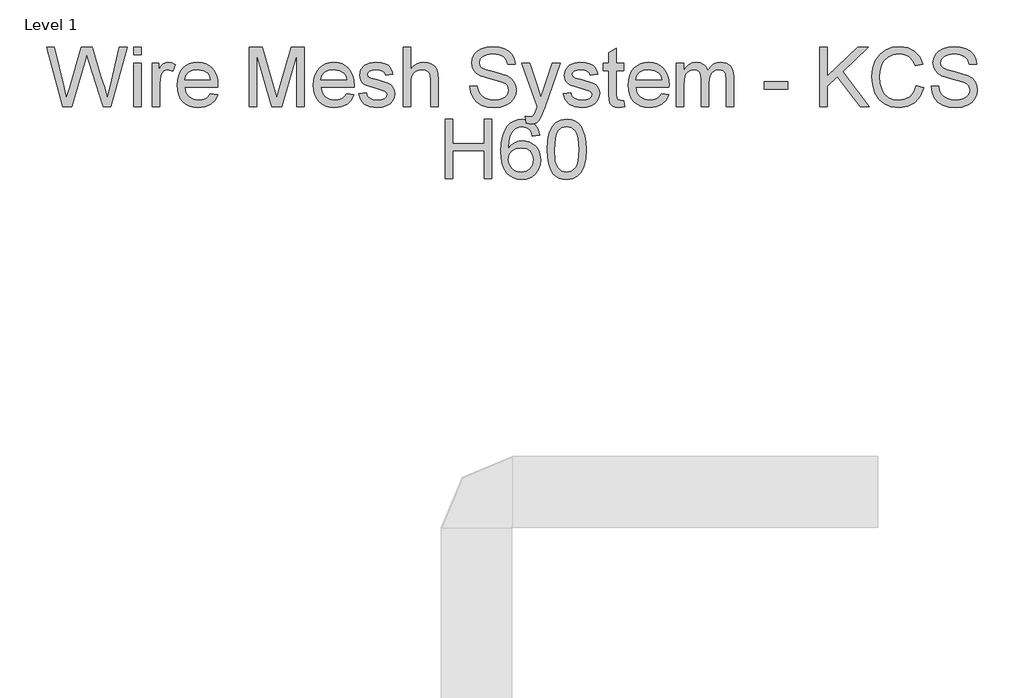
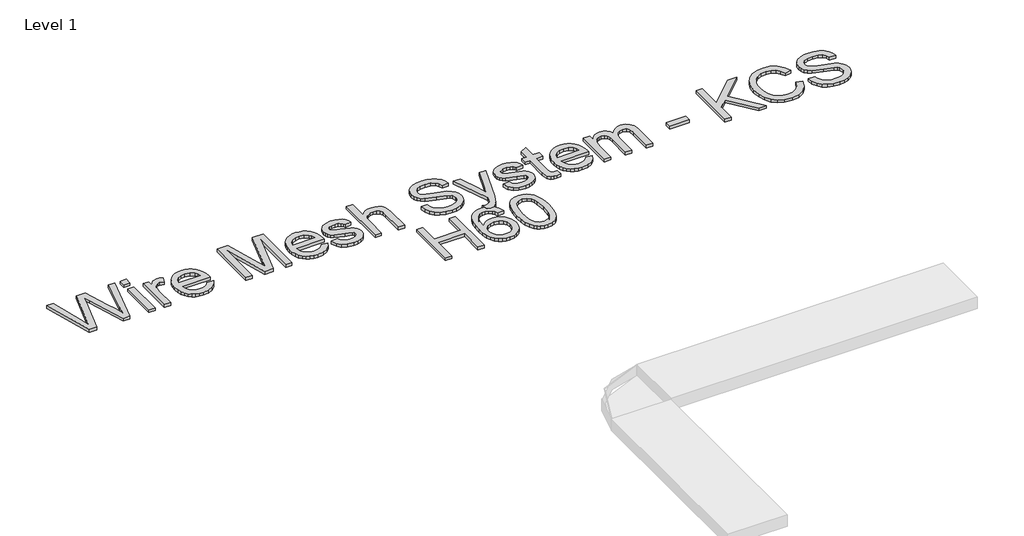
# One storey, part 27 of 32: 1 proxy.
"""IFC4 building model written with IfcOpenShell, lengths in millimetres."""

from ifc_helpers import new_model, si_unit, origin, origin_with_axes, place, context, project, spatial, polyline, outline, extrude, element, save

model = new_model("IFC4")

# Units and contexts
model_context = context("Model", 3, world=origin())
ifc_project = project(units=[si_unit("LENGTHUNIT", "METRE", prefix="MILLI")], contexts=[model_context])

# Site, building, storey
site = spatial("IfcSite", under=ifc_project)
building = spatial("IfcBuilding", under=site)
storey = spatial("IfcBuildingStorey", under=building, Name="Level 1", Elevation=0.0)

# Proxy
placement = place(None, origin())
element("IfcBuildingElementProxy", 1, Name="250mm Arial 3", ObjectType="250mm Arial 3", at=placement, inside=storey, context=model_context, shape_type="SweptSolid", body=[
    extrude(outline(polyline([(3816.2159742, 57703.1379564), (3747.7286094, 57954.2787318), (3780.102225, 57954.2787318), (3819.8334805, 57789.2223433), (3832.0962137, 57738.2706869), (3845.2173381, 57783.3362313), (3895.0040348, 57954.2787318), (3941.6637345, 57954.2787318), (3977.8387974, 57830.3638131), (3993.3358265, 57784.3785637), (4004.7554967, 57738.2706869), (4016.6503479, 57787.7508153), (4056.7494854, 57954.2787318), (4089.1231009, 57954.2787318), (4020.5744225, 57703.1379564), (3987.0358473, 57703.1379564), (3926.8258274, 57896.8891405), (3918.4258552, 57923.9284672), (3908.9835506, 57891.3709106), (3854.1078197, 57703.1379564), (3816.2159742, 57703.1379564)])), origin_with_axes(), (0.0, 0.0, 1.0), 15.0),
    extrude(outline(polyline([(4116.5916233, 57922.8861348), (4116.5916233, 57954.2787318), (4147.9842202, 57954.2787318), (4147.9842202, 57922.8861348), (4116.5916233, 57922.8861348)])), origin_with_axes(), (0.0, 0.0, 1.0), 15.0),
    extrude(outline(polyline([(4116.5916233, 57703.1379564), (4116.5916233, 57887.5694633), (4147.9842202, 57887.5694633), (4147.9842202, 57703.1379564), (4116.5916233, 57703.1379564)])), origin_with_axes(), (0.0, 0.0, 1.0), 15.0),
    extrude(outline(polyline([(4195.0731156, 57703.1379564), (4195.0731156, 57887.5694633), (4222.5416379, 57887.5694633), (4222.5416379, 57860.284882), (4232.6890496, 57876.1038078), (4242.0393836, 57885.423485), (4261.6597567, 57891.4935379), (4277.2947415, 57889.0716481), (4293.1749809, 57881.8059787), (4282.6903441, 57853.6630061), (4260.6174244, 57860.100941), (4251.2440977, 57858.5527709), (4242.8671181, 57853.9082608), (4231.5547467, 57836.7404343), (4226.4657125, 57800.0748621), (4226.4657125, 57703.1379564), (4195.0731156, 57703.1379564)])), origin_with_axes(), (0.0, 0.0, 1.0), 15.0),
    extrude(outline(polyline([(4441.9219343, 57758.075001), (4472.7013946, 57754.1509264), (4461.6112853, 57730.9590323), (4443.9146285, 57713.6225933), (4420.009963, 57702.8160597), (4390.2958277, 57699.2138818), (4370.8172424, 57700.7678), (4353.4616429, 57705.4295547), (4338.229029, 57713.1991458), (4325.1194009, 57724.0765733), (4314.5772824, 57737.759101), (4307.0471978, 57753.9439928), (4302.5291471, 57772.6312485), (4301.0231302, 57793.8208682), (4302.5444755, 57815.7290074), (4307.1085115, 57835.0389801), (4314.7152382, 57851.7507861), (4325.3646555, 57865.8644256), (4338.4397948, 57877.0771622), (4353.3236872, 57885.0862598), (4370.0163327, 57889.8917184), (4388.5177314, 57891.4935379), (4406.4232378, 57889.8955505), (4422.6157938, 57885.1015883), (4437.0953992, 57877.1116512), (4449.8620541, 57865.9257393), (4460.2834612, 57851.8427566), (4467.7273234, 57835.1616074), (4472.1936408, 57815.8822916), (4473.6824132, 57794.0048092), (4473.4984722, 57785.5435233), (4332.4157271, 57785.5435233), (4337.8496507, 57762.0450609), (4350.4726017, 57744.7699355), (4368.6904247, 57734.1473429), (4390.9089643, 57730.6064787), (4407.6169383, 57732.2466193), (4421.6884246, 57737.1670409), (4433.1234233, 57745.6743121), (4441.9219343, 57758.075001)]), holes=[polyline([(4332.4157271, 57816.9361202), (4442.2898163, 57816.9361202), (4438.043845, 57833.5214669), (4429.7205148, 57845.3856612), (4411.4183856, 57856.4221211), (4388.395104, 57860.100941), (4367.2342251, 57857.1655493), (4349.7368377, 57848.359374), (4337.5737392, 57834.632777), (4332.4157271, 57816.9361202)])]), origin_with_axes(), (0.0, 0.0, 1.0), 15.0),
    extrude(outline(polyline([(4607.1009502, 57703.1379564), (4607.1009502, 57954.2787318), (4661.1182898, 57954.2787318), (4712.4991418, 57777.2661784), (4722.8611513, 57740.2940379), (4734.0815522, 57780.3318617), (4784.6040128, 57954.2787318), (4838.6213525, 57954.2787318), (4838.6213525, 57703.1379564), (4807.2287555, 57703.1379564), (4807.2287555, 57922.8861348), (4744.1369934, 57703.1379564), (4701.5853093, 57703.1379564), (4638.4935471, 57922.8861348), (4638.4935471, 57703.1379564), (4607.1009502, 57703.1379564)])), origin_with_axes(), (0.0, 0.0, 1.0), 15.0),
    extrude(outline(polyline([(5018.7609028, 57758.075001), (5049.540363, 57754.1509264), (5038.4502537, 57730.9590323), (5020.7535969, 57713.6225933), (4996.8489314, 57702.8160597), (4967.1347961, 57699.2138818), (4947.6562109, 57700.7678), (4930.3006113, 57705.4295547), (4915.0679975, 57713.1991458), (4901.9583693, 57724.0765733), (4891.4162509, 57737.759101), (4883.8861663, 57753.9439928), (4879.3681155, 57772.6312485), (4877.8620986, 57793.8208682), (4879.3834439, 57815.7290074), (4883.9474799, 57835.0389801), (4891.5542066, 57851.7507861), (4902.203624, 57865.8644256), (4915.2787632, 57877.0771622), (4930.1626556, 57885.0862598), (4946.8553011, 57889.8917184), (4965.3566998, 57891.4935379), (4983.2622063, 57889.8955505), (4999.4547622, 57885.1015883), (5013.9343676, 57877.1116512), (5026.7010225, 57865.9257393), (5037.1224296, 57851.8427566), (5044.5662919, 57835.1616074), (5049.0326092, 57815.8822916), (5050.5213817, 57794.0048092), (5050.3374407, 57785.5435233), (4909.2546955, 57785.5435233), (4914.6886192, 57762.0450609), (4927.3115701, 57744.7699355), (4945.5293931, 57734.1473429), (4967.7479328, 57730.6064787), (4984.4559067, 57732.2466193), (4998.527393, 57737.1670409), (5009.9623917, 57745.6743121), (5018.7609028, 57758.075001)]), holes=[polyline([(4909.2546955, 57816.9361202), (5019.1287848, 57816.9361202), (5014.8828134, 57833.5214669), (5006.5594833, 57845.3856612), (4988.257354, 57856.4221211), (4965.2340725, 57860.100941), (4944.0731935, 57857.1655493), (4926.5758061, 57848.359374), (4914.4127077, 57834.632777), (4909.2546955, 57816.9361202)])]), origin_with_axes(), (0.0, 0.0, 1.0), 15.0),
    extrude(outline(polyline([(5070.1417548, 57758.075001), (5101.5343517, 57761.9990756), (5106.4854302, 57748.5713828), (5116.0656905, 57738.6998826), (5130.3364462, 57732.6298297), (5149.359011, 57730.6064787), (5168.1516496, 57732.4612171), (5181.3647446, 57738.0254323), (5189.182237, 57746.0881793), (5191.7880678, 57755.4385134), (5189.1669086, 57763.4399468), (5181.303431, 57769.5406565), (5148.9911291, 57778.4924517), (5101.7182927, 57793.851525), (5089.7544636, 57801.5693827), (5081.0862441, 57811.7857723), (5075.8209331, 57823.8492361), (5074.0658294, 57837.1083163), (5079.7066866, 57860.4994798), (5095.0964168, 57878.3724134), (5115.054015, 57887.6614338), (5142.0626848, 57891.4935379), (5162.495464, 57889.9530321), (5180.2610986, 57885.3315145), (5194.5471828, 57878.0811735), (5204.5413103, 57868.6541974), (5211.1631862, 57856.3531432), (5215.3325155, 57840.4805679), (5183.9399186, 57836.5564933), (5179.9775229, 57846.4356577), (5172.1370379, 57853.8776039), (5160.3418214, 57858.5451067), (5144.5152314, 57860.100941), (5126.4890137, 57858.6140846), (5114.4715352, 57854.1535154), (5107.7117035, 57847.7155805), (5105.4584263, 57840.2966269), (5109.1985599, 57831.1608907), (5120.9094701, 57824.2324465), (5147.9487967, 57817.5492569), (5194.0260166, 57802.7726634), (5206.1967793, 57795.7062634), (5215.424486, 57786.0340326), (5221.2416201, 57773.7253142), (5223.1806647, 57758.7494513), (5220.9043949, 57743.2677507), (5214.0755854, 57728.7057551), (5202.9548192, 57716.2054314), (5187.8026795, 57706.9087468), (5169.5005503, 57701.137598), (5148.9298154, 57699.2138818), (5117.2766354, 57702.9233586), (5094.1767118, 57714.0517889), (5078.7563248, 57732.4765455), (5070.1417548, 57758.075001)])), origin_with_axes(), (0.0, 0.0, 1.0), 15.0),
    extrude(outline(polyline([(5258.4973363, 57703.1379564), (5258.4973363, 57954.2787318), (5289.8899332, 57954.2787318), (5289.8899332, 57861.940351), (5301.4207345, 57874.8698703), (5314.3694143, 57884.1052412), (5328.7359726, 57889.6464637), (5344.5204095, 57891.4935379), (5363.4816607, 57889.4778512), (5379.7757674, 57883.4307909), (5392.6056519, 57873.8275379), (5401.1742367, 57861.1432733), (5406.0026879, 57843.7148638), (5407.6121717, 57819.8791762), (5407.6121717, 57703.1379564), (5376.2195747, 57703.1379564), (5376.2195747, 57816.6295519), (5373.7210429, 57836.2805818), (5366.2254472, 57849.7389315), (5354.146655, 57857.5104386), (5337.8985336, 57860.100941), (5324.6317891, 57858.3535015), (5312.1774507, 57853.1111831), (5301.8614265, 57844.8798235), (5295.0096243, 57834.1652603), (5291.169856, 57819.9251614), (5289.8899332, 57801.1171944), (5289.8899332, 57703.1379564), (5258.4973363, 57703.1379564)])), origin_with_axes(), (0.0, 0.0, 1.0), 15.0),
    extrude(outline(polyline([(5541.0307086, 57789.4675979), (5572.4233055, 57789.4675979), (5576.0254834, 57772.0468526), (5582.5400604, 57758.0443442), (5592.7028005, 57746.9312422), (5607.2494677, 57738.1787164), (5625.0304308, 57732.4995381), (5644.8960586, 57730.6064787), (5662.3857817, 57732.0396856), (5677.6988698, 57736.3393065), (5690.1072229, 57743.1451234), (5698.8827413, 57752.0969186), (5704.1020672, 57762.3746218), (5705.8418424, 57773.1581628), (5700.6301808, 57792.7478791), (5692.6900611, 57800.4963936), (5679.2930251, 57807.0033064), (5633.5836872, 57818.990128), (5584.3794703, 57834.4718287), (5568.7521498, 57845.0331076), (5557.6773689, 57857.8323354), (5551.0784856, 57872.5936004), (5548.8788578, 57889.0409913), (5551.5996517, 57907.4274268), (5559.7620335, 57924.5722607), (5573.1514053, 57939.1035995), (5591.5531693, 57949.64955), (5613.6414174, 57956.0644923), (5638.0902416, 57958.2028064), (5664.5777453, 57955.9648576), (5687.754311, 57949.2510112), (5706.7922042, 57938.1992229), (5720.8636906, 57922.9474485), (5729.7695005, 57904.4460498), (5733.3103647, 57883.6453887), (5701.9177678, 57883.6453887), (5696.1542832, 57902.3767136), (5684.1368047, 57915.8963769), (5665.3594945, 57924.0817513), (5639.316515, 57926.8102095), (5612.6603987, 57924.1124082), (5594.3735979, 57916.0190043), (5583.7969905, 57904.1088247), (5580.2714547, 57889.9606963), (5582.7699866, 57877.8972325), (5590.2655823, 57868.1943449), (5607.9852317, 57859.5184612), (5641.5238069, 57850.6586365), (5697.0739882, 57834.9010243), (5714.9699144, 57823.5120109), (5727.4549096, 57809.455853), (5734.7895569, 57792.8858348), (5737.2344393, 57773.9552405), (5734.4216749, 57754.6031147), (5725.9833817, 57736.4006201), (5712.2644489, 57720.7349785), (5693.6097661, 57708.9934115), (5671.1766286, 57701.6587642), (5646.1223319, 57699.2138818), (5615.3658642, 57701.8503694), (5590.0509844, 57709.7598323), (5569.8864526, 57722.9729273), (5554.5810287, 57741.5203112), (5544.7555138, 57764.1143971), (5541.0307086, 57789.4675979)])), origin_with_axes(), (0.0, 0.0, 1.0), 15.0),
    extrude(outline(polyline([(5780.3992601, 57632.5046133), (5776.4751855, 57662.7322506), (5792.4167386, 57659.9731356), (5807.3159594, 57663.4373577), (5816.4516956, 57673.0942601), (5825.0356089, 57696.2095122), (5827.4881555, 57703.8124067), (5760.778887, 57887.5694633), (5793.8882666, 57887.5694633), (5829.2662518, 57785.1756413), (5841.5902986, 57744.2181125), (5853.9143455, 57780.3931754), (5890.2733493, 57887.5694633), (5923.1374742, 57887.5694633), (5858.9420661, 57698.7233725), (5842.264749, 57657.7658437), (5833.726821, 57644.6907044), (5824.0545902, 57635.6316103), (5812.8188609, 57630.3433066), (5799.5904375, 57628.5805387), (5780.3992601, 57632.5046133)])), origin_with_axes(), (0.0, 0.0, 1.0), 15.0),
    extrude(outline(polyline([(5937.3622447, 57758.075001), (5968.7548416, 57761.9990756), (5973.7059202, 57748.5713828), (5983.2861804, 57738.6998826), (5997.5569362, 57732.6298297), (6016.579501, 57730.6064787), (6035.3721396, 57732.4612171), (6048.5852346, 57738.0254323), (6056.402727, 57746.0881793), (6059.0085578, 57755.4385134), (6056.3873986, 57763.4399468), (6048.5239209, 57769.5406565), (6016.211619, 57778.4924517), (5968.9387826, 57793.851525), (5956.9749536, 57801.5693827), (5948.3067341, 57811.7857723), (5943.041423, 57823.8492361), (5941.2863193, 57837.1083163), (5946.9271766, 57860.4994798), (5962.3169067, 57878.3724134), (5982.274505, 57887.6614338), (6009.2831748, 57891.4935379), (6029.7159539, 57889.9530321), (6047.4815886, 57885.3315145), (6061.7676728, 57878.0811735), (6071.7618003, 57868.6541974), (6078.3836762, 57856.3531432), (6082.5530055, 57840.4805679), (6051.1604086, 57836.5564933), (6047.1980129, 57846.4356577), (6039.3575279, 57853.8776039), (6027.5623114, 57858.5451067), (6011.7357214, 57860.100941), (5993.7095036, 57858.6140846), (5981.6920251, 57854.1535154), (5974.9321935, 57847.7155805), (5972.6789163, 57840.2966269), (5976.4190499, 57831.1608907), (5988.1299601, 57824.2324465), (6015.1692867, 57817.5492569), (6061.2465066, 57802.7726634), (6073.4172693, 57795.7062634), (6082.644976, 57786.0340326), (6088.46211, 57773.7253142), (6090.4011547, 57758.7494513), (6088.1248849, 57743.2677507), (6081.2960753, 57728.7057551), (6070.1753092, 57716.2054314), (6055.0231695, 57706.9087468), (6036.7210402, 57701.137598), (6016.1503054, 57699.2138818), (5984.4971253, 57702.9233586), (5961.3972017, 57714.0517889), (5945.9768148, 57732.4765455), (5937.3622447, 57758.075001)])), origin_with_axes(), (0.0, 0.0, 1.0), 15.0),
    extrude(outline(polyline([(6192.4270947, 57729.3188917), (6196.3511693, 57702.2182514), (6172.8680353, 57699.2138818), (6157.8002019, 57700.5167972), (6146.5644726, 57704.4255434), (6133.4433481, 57718.0984909), (6129.6419009, 57753.7217307), (6129.6419009, 57856.1768664), (6106.0974532, 57856.1768664), (6106.0974532, 57887.5694633), (6129.6419009, 57887.5694633), (6129.6419009, 57932.3897531), (6161.0344978, 57950.8451665), (6161.0344978, 57887.5694633), (6192.4270947, 57887.5694633), (6192.4270947, 57856.1768664), (6161.0344978, 57856.1768664), (6161.0344978, 57754.6414357), (6162.6899668, 57738.4546279), (6168.0549125, 57732.7218002), (6178.7541472, 57730.6064787), (6192.4270947, 57729.3188917)])), origin_with_axes(), (0.0, 0.0, 1.0), 15.0),
    extrude(outline(polyline([(6352.9462719, 57758.075001), (6383.7257322, 57754.1509264), (6372.6356229, 57730.9590323), (6354.9389661, 57713.6225933), (6331.0343006, 57702.8160597), (6301.3201653, 57699.2138818), (6281.8415801, 57700.7678), (6264.4859805, 57705.4295547), (6249.2533666, 57713.1991458), (6236.1437385, 57724.0765733), (6225.60162, 57737.759101), (6218.0715355, 57753.9439928), (6213.5534847, 57772.6312485), (6212.0474678, 57793.8208682), (6213.5688131, 57815.7290074), (6218.1328491, 57835.0389801), (6225.7395758, 57851.7507861), (6236.3889931, 57865.8644256), (6249.4641324, 57877.0771622), (6264.3480248, 57885.0862598), (6281.0406703, 57889.8917184), (6299.542069, 57891.4935379), (6317.4475755, 57889.8955505), (6333.6401314, 57885.1015883), (6348.1197368, 57877.1116512), (6360.8863917, 57865.9257393), (6371.3077988, 57851.8427566), (6378.7516611, 57835.1616074), (6383.2179784, 57815.8822916), (6384.7067509, 57794.0048092), (6384.5228099, 57785.5435233), (6243.4400647, 57785.5435233), (6248.8739883, 57762.0450609), (6261.4969393, 57744.7699355), (6279.7147623, 57734.1473429), (6301.9333019, 57730.6064787), (6318.6412759, 57732.2466193), (6332.7127622, 57737.1670409), (6344.1477609, 57745.6743121), (6352.9462719, 57758.075001)]), holes=[polyline([(6243.4400647, 57816.9361202), (6353.3141539, 57816.9361202), (6349.0681826, 57833.5214669), (6340.7448524, 57845.3856612), (6322.4427232, 57856.4221211), (6299.4194416, 57860.100941), (6278.2585627, 57857.1655493), (6260.7611753, 57848.359374), (6248.5980768, 57834.632777), (6243.4400647, 57816.9361202)])]), origin_with_axes(), (0.0, 0.0, 1.0), 15.0),
    extrude(outline(polyline([(6416.0993478, 57703.1379564), (6416.0993478, 57887.5694633), (6447.4919447, 57887.5694633), (6447.4919447, 57857.2191987), (6456.9342492, 57871.1603935), (6469.0743551, 57882.0818902), (6483.498395, 57889.140626), (6499.7925017, 57891.4935379), (6517.251568, 57889.0946407), (6531.2464123, 57881.8979492), (6541.7003923, 57870.3786442), (6548.536866, 57855.0119067), (6559.9795289, 57870.9726204), (6573.0316756, 57882.3731301), (6587.6933059, 57889.213436), (6603.96442, 57891.4935379), (6627.5625171, 57887.6997549), (6645.0139193, 57876.3184056), (6655.7974603, 57857.0429219), (6659.3919739, 57829.5667354), (6659.3919739, 57703.1379564), (6627.999377, 57703.1379564), (6627.999377, 57816.0777289), (6625.0869779, 57842.2893211), (6614.5410273, 57855.1958477), (6596.6067801, 57860.100941), (6579.599902, 57856.9586156), (6565.7353493, 57847.5316395), (6556.5153068, 57831.1762191), (6553.4419593, 57807.248561), (6553.4419593, 57703.1379564), (6522.0493624, 57703.1379564), (6522.0493624, 57819.5726079), (6520.232945, 57837.3229141), (6514.783693, 57849.9841861), (6505.1957685, 57857.5717523), (6490.9633338, 57860.100941), (6478.8692132, 57858.4148152), (6467.7254544, 57853.3564378), (6458.5284046, 57845.048436), (6452.2744106, 57833.6134374), (6447.4919447, 57796.1507875), (6447.4919447, 57703.1379564), (6416.0993478, 57703.1379564)])), origin_with_axes(), (0.0, 0.0, 1.0), 15.0),
    extrude(outline(polyline([(6788.8864362, 57777.6953741), (6788.8864362, 57809.087971), (6886.9883016, 57809.087971), (6886.9883016, 57777.6953741), (6788.8864362, 57777.6953741)])), origin_with_axes(), (0.0, 0.0, 1.0), 15.0),
    extrude(outline(polyline([(7024.3309131, 57703.1379564), (7024.3309131, 57954.2787318), (7055.7235101, 57954.2787318), (7055.7235101, 57831.3448317), (7184.4822084, 57954.2787318), (7228.3827931, 57954.2787318), (7120.2868002, 57851.0265185), (7232.3068677, 57703.1379564), (7193.9245129, 57703.1379564), (7098.0299395, 57829.8119901), (7055.7235101, 57789.4675979), (7055.7235101, 57703.1379564), (7024.3309131, 57703.1379564)])), origin_with_axes(), (0.0, 0.0, 1.0), 15.0),
    extrude(outline(polyline([(7432.4346731, 57792.4106539), (7463.82727, 57784.31725), (7449.3419165, 57747.7359841), (7426.6098749, 57721.01089), (7396.7501196, 57704.6631338), (7360.8816251, 57699.2138818), (7324.4689717, 57703.3372258), (7295.5519141, 57715.7072579), (7273.3870239, 57735.8947824), (7257.2308729, 57763.4706036), (7247.3670369, 57795.8902044), (7244.0790916, 57830.6090677), (7247.7962326, 57867.2286547), (7258.9476556, 57898.8511778), (7276.9508807, 57924.472626), (7301.2234282, 57943.0889878), (7330.0101943, 57954.4243517), (7361.5560754, 57958.2028064), (7395.9760346, 57953.3130415), (7424.4332397, 57938.643747), (7446.0386427, 57915.0992993), (7459.9031954, 57883.584075), (7428.5105985, 57876.1038078), (7417.6274228, 57898.9967978), (7402.7588588, 57914.7007605), (7383.7209656, 57923.7828472), (7360.3298021, 57926.8102095), (7333.3671175, 57923.4532863), (7311.2175557, 57913.3825166), (7294.4099471, 57897.6555613), (7283.4731219, 57877.3300811), (7277.4720469, 57854.3527848), (7275.4716885, 57830.6703814), (7277.8399289, 57801.6690174), (7284.9446499, 57776.5917281), (7297.0540989, 57756.3965394), (7314.4365232, 57742.0414774), (7335.2755053, 57733.4652284), (7357.7546281, 57730.6064787), (7383.958556, 57734.4998965), (7405.7938853, 57746.1801498), (7422.2795972, 57765.5246114), (7432.4346731, 57792.4106539)])), origin_with_axes(), (0.0, 0.0, 1.0), 15.0),
    extrude(outline(polyline([(7495.219867, 57789.4675979), (7526.6124639, 57789.4675979), (7530.2146418, 57772.0468526), (7536.7292187, 57758.0443442), (7546.8919589, 57746.9312422), (7561.4386261, 57738.1787164), (7579.2195892, 57732.4995381), (7599.0852169, 57730.6064787), (7616.5749401, 57732.0396856), (7631.8880282, 57736.3393065), (7644.2963813, 57743.1451234), (7653.0718997, 57752.0969186), (7658.2912255, 57762.3746218), (7660.0310008, 57773.1581628), (7654.8193392, 57792.7478791), (7646.8792195, 57800.4963936), (7633.4821835, 57807.0033064), (7587.7728456, 57818.990128), (7538.5686287, 57834.4718287), (7522.9413081, 57845.0331076), (7511.8665272, 57857.8323354), (7505.267644, 57872.5936004), (7503.0680162, 57889.0409913), (7505.7888101, 57907.4274268), (7513.9511919, 57924.5722607), (7527.3405637, 57939.1035995), (7545.7423276, 57949.64955), (7567.8305758, 57956.0644923), (7592.2794, 57958.2028064), (7618.7669037, 57955.9648576), (7641.9434694, 57949.2510112), (7660.9813626, 57938.1992229), (7675.0528489, 57922.9474485), (7683.9586589, 57904.4460498), (7687.4995231, 57883.6453887), (7656.1069262, 57883.6453887), (7650.3434416, 57902.3767136), (7638.3259631, 57915.8963769), (7619.5486529, 57924.0817513), (7593.5056733, 57926.8102095), (7566.8495571, 57924.1124082), (7548.5627563, 57916.0190043), (7537.9861489, 57904.1088247), (7534.4606131, 57889.9606963), (7536.959145, 57877.8972325), (7544.4547406, 57868.1943449), (7562.1743901, 57859.5184612), (7595.7129653, 57850.6586365), (7651.2631466, 57834.9010243), (7669.1590728, 57823.5120109), (7681.644068, 57809.455853), (7688.9787153, 57792.8858348), (7691.4235977, 57773.9552405), (7688.6108333, 57754.6031147), (7680.17254, 57736.4006201), (7666.4536073, 57720.7349785), (7647.7989245, 57708.9934115), (7625.365787, 57701.6587642), (7600.3114902, 57699.2138818), (7569.5550226, 57701.8503694), (7544.2401428, 57709.7598323), (7524.075611, 57722.9729273), (7508.7701871, 57741.5203112), (7498.9446722, 57764.1143971), (7495.219867, 57789.4675979)])), origin_with_axes(), (0.0, 0.0, 1.0), 15.0),
    extrude(outline(polyline([(5437.0427313, 57398.2009118), (5437.0427313, 57649.3416872), (5468.4353282, 57649.3416872), (5468.4353282, 57547.3157472), (5601.8538651, 57547.3157472), (5601.8538651, 57649.3416872), (5633.246462, 57649.3416872), (5633.246462, 57398.2009118), (5601.8538651, 57398.2009118), (5601.8538651, 57515.9231502), (5468.4353282, 57515.9231502), (5468.4353282, 57398.2009118), (5437.0427313, 57398.2009118)])), origin_with_axes(), (0.0, 0.0, 1.0), 15.0),
    extrude(outline(polyline([(5837.298342, 57582.6324187), (5805.9057451, 57578.7083441), (5800.8473677, 57594.2666868), (5794.0108939, 57604.8892794), (5779.770795, 57614.6841375), (5762.5569833, 57617.9490902), (5747.9643309, 57616.0483666), (5734.2300697, 57610.3461957), (5722.4348532, 57598.3363814), (5712.8009435, 57581.8046842), (5706.2940307, 57558.4211849), (5703.8798051, 57525.8559641), (5716.4720992, 57540.5482513), (5731.5629252, 57550.9025966), (5748.3092202, 57557.0416274), (5765.8679213, 57559.087971), (5794.8692853, 57553.493099), (5819.2108106, 57536.708483), (5828.8408882, 57524.7025008), (5835.7195151, 57511.0640422), (5841.2224166, 57478.8896961), (5838.6319143, 57456.4105733), (5830.8604071, 57435.5715911), (5818.5516887, 57417.8979269), (5802.3495525, 57404.9147582), (5782.9897625, 57396.9363174), (5761.2080827, 57394.2768372), (5742.4940022, 57396.0396051), (5725.592507, 57401.3279087), (5710.5035971, 57410.1417482), (5697.2272724, 57422.4811235), (5686.4034943, 57438.8672007), (5678.6722242, 57459.821146), (5674.0334622, 57485.3429594), (5672.4872082, 57515.4326409), (5674.2039908, 57549.1666534), (5679.3543388, 57577.9572517), (5687.938252, 57601.8044356), (5699.9557305, 57620.7082052), (5712.9810524, 57633.2353536), (5728.0833747, 57642.1833167), (5745.2626975, 57647.5520945), (5764.5190207, 57649.3416872), (5792.064185, 57644.9117748), (5814.1217763, 57631.6220377), (5829.5728201, 57610.5148082), (5837.298342, 57582.6324187)]), holes=[polyline([(5703.8798051, 57479.3802054), (5705.6962225, 57465.4696674), (5711.1454745, 57452.1875946), (5719.6067604, 57440.7679243), (5730.4592793, 57432.4445942), (5743.5574111, 57427.3632241), (5758.7555361, 57425.6694341), (5779.4718909, 57429.1796415), (5795.7583334, 57439.7102636), (5806.3119481, 57456.2649534), (5809.8298197, 57477.8473637), (5806.3579334, 57498.5637186), (5795.9422744, 57514.3596518), (5779.3799204, 57524.3614435), (5757.4679491, 57527.6953741), (5736.7822511, 57524.3614435), (5719.4841331, 57514.3596518), (5707.7808871, 57498.946929), (5703.8798051, 57479.3802054)])]), origin_with_axes(), (0.0, 0.0, 1.0), 15.0),
    extrude(outline(polyline([(5868.690939, 57521.7479485), (5870.9978656, 57561.9467207), (5877.9186457, 57594.0061037), (5889.3843012, 57618.4166069), (5905.3258543, 57635.6687397), (5925.8582682, 57645.9234503), (5951.0965059, 57649.3416872), (5970.4409675, 57647.3183362), (5987.7620781, 57641.2482833), (6002.2474316, 57631.3691189), (6013.0846221, 57617.9184334), (6027.7999019, 57580.7623519), (6032.0765301, 57555.0489333), (6033.5020728, 57521.7479485), (6031.2181387, 57481.7791026), (6024.3663366, 57449.7963616), (6012.9696589, 57425.3628658), (5997.0510984, 57408.0417552), (5976.4726993, 57397.7180667), (5951.0965059, 57394.2768372), (5933.8060521, 57395.7713578), (5918.4776356, 57400.2549196), (5905.1112565, 57407.7275226), (5893.7069146, 57418.1891669), (5882.7624253, 57437.1006007), (5874.9449329, 57460.6642089), (5870.2544374, 57488.8799915), (5868.690939, 57521.7479485)]), holes=[polyline([(5900.0835359, 57521.8092622), (5903.7623558, 57472.4287685), (5908.3608808, 57455.5387696), (5914.7988157, 57443.848936), (5931.2308781, 57430.2143096), (5951.0965059, 57425.6694341), (5970.9621336, 57430.229638), (5987.3941961, 57443.9102497), (5993.832131, 57455.6192438), (5998.4306559, 57472.5054106), (6002.1094759, 57521.8092622), (5998.5532832, 57570.0784456), (5994.1080425, 57586.912879), (5987.8847054, 57598.8805402), (5971.4832998, 57613.1819527), (5950.7286239, 57617.9490902), (5931.077594, 57613.7491041), (5915.289325, 57601.1491458), (5908.6367923, 57588.1199918), (5903.8849832, 57570.5536265), (5900.0835359, 57521.8092622)])]), origin_with_axes(), (0.0, 0.0, 1.0), 15.0),
])

save(model, "model.ifc")
